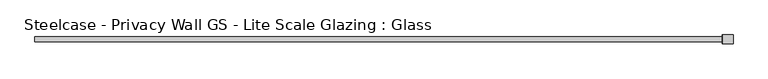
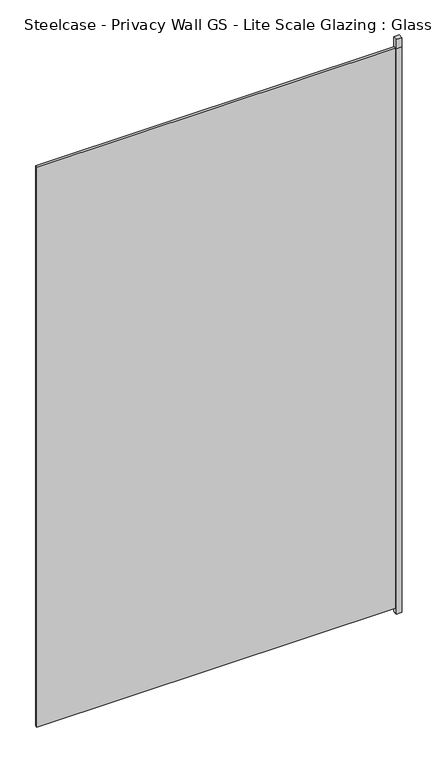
"""IFC4 building model written with IfcOpenShell, lengths in millimetres: plate geometry, Steelcase - Privacy Wall GS - Lite Scale Glazing : Glass."""

from ifc_helpers import new_model, si_unit, frame, origin, origin_with_axes, place, context, project, spatial, polyline, outline, extrude, source, transform, mapped, element, save


def steelcase_privacy_wall_gs_lite_scale_glazing_glass_b524abd1(model_context):
    return source(origin(), model_context, "Body", "SweptSolid", [
        extrude(outline(polyline([(902.728729, 11.7474777), (929.7161957, 11.7474777), (929.7161957, -11.7475002), (902.728729, -11.7475002), (902.728729, 11.7474777)])), frame((0.0, 0.0, 2970.784), z_axis=(0.0, 0.0, 1.0), x_axis=(1.0, 0.0, 0.0)), (0.0, 0.0, 1.0), 49.276),
        extrude(outline(polyline([(929.7161957, 11.7474777), (929.7161957, -11.7475002), (902.728729, -11.7475002), (902.728729, -6.3896792), (925.2239708, -6.3896792), (925.2239708, 6.3500051), (902.728729, 6.3500051), (902.728729, 11.7474777), (929.7161957, 11.7474777)])), frame((0.0, 0.0, -27.8638004), z_axis=(0.0, 0.0, 1.0), x_axis=(1.0, 0.0, 0.0)), (0.0, 0.0, 1.0), 2998.6478004),
        extrude(outline(polyline([(902.728729, 11.7474777), (902.728729, -11.7474954), (901.7, -11.7474954), (901.7, 11.7474777), (902.728729, 11.7474777)])), frame((0.0, 0.0, -27.8638004), z_axis=(0.0, 0.0, 1.0), x_axis=(1.0, 0.0, 0.0)), (0.0, 0.0, 1.0), 3047.9238004),
        extrude(outline(polyline([(-899.668, -6.349956), (-899.668, 6.3502015), (899.668, 6.3502015), (899.668, -6.349956), (-899.668, -6.349956)])), origin_with_axes(), (0.0, 0.0, 1.0), 2970.784),
    ])


if __name__ == "__main__":
    model = new_model("IFC4")
    model_context = context("Model", 3, world=origin())
    ifc_project = project(units=[si_unit("LENGTHUNIT", "METRE", prefix="MILLI")], contexts=[model_context])
    site = spatial("IfcSite", under=ifc_project)
    building = spatial("IfcBuilding", under=site)
    placement = place(None, origin())
    steelcase_privacy_wall_gs_lite_scale_glazing_glass_shape = steelcase_privacy_wall_gs_lite_scale_glazing_glass_b524abd1(model_context)
    element("IfcPlate", 1, ObjectType="Steelcase - Privacy Wall GS - Lite Scale Glazing : Glass", at=placement, inside=building, context=model_context, shape_type="MappedRepresentation", body=[
        mapped(steelcase_privacy_wall_gs_lite_scale_glazing_glass_shape, transform((0.0, 0.0, 0.0), x_axis=(1.0, 0.0, 0.0), y_axis=(0.0, 1.0, 0.0), z_axis=(0.0, 0.0, 1.0))),
    ])
    save(model, "model.ifc")
